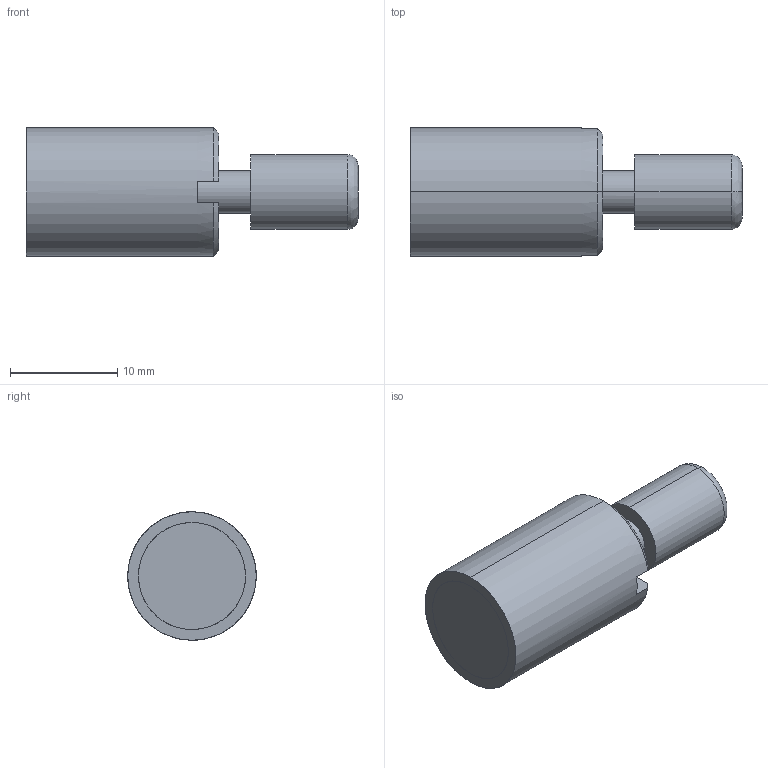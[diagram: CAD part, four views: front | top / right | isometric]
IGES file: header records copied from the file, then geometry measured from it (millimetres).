
Start section: START RECORD GO HERE.
Global section: file name: CF-VPA12.igs; native system: DASSAULT SYSTEMES CATIA V5 R20 - www.3ds.com; preprocessor: CATIA Version 5 Release 20 ; author: Utente; organization: NB04-ASUS; date: 20210324.135449; units: millimetre
Bounding box: 31 x 12 x 12 mm (x, y, z)
Surface area: 1824.7 mm2 (no closed solid volume)
Topology: 0 solids, 0 shells, 30 faces, 176 edges, 176 vertices
Faces by surface type: revolution 18, plane 12
